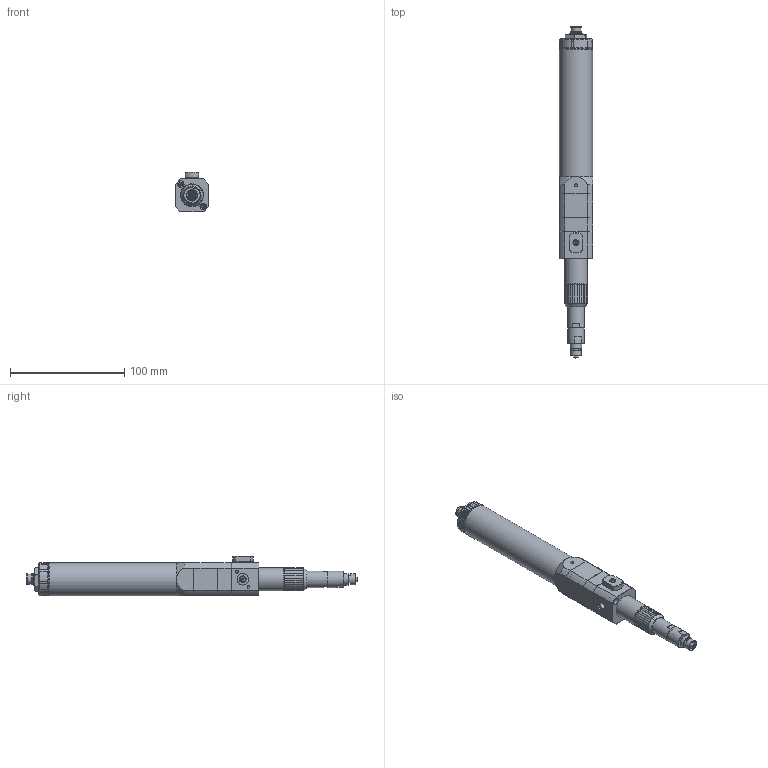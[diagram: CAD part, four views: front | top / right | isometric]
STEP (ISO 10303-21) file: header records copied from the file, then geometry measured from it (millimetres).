
FILE_DESCRIPTION (( 'STEP AP214' ), '1' );
FILE_NAME ('PCPM-150-SY.STEP', '2024-10-11T11:35:02', ( '' ), ( '' ), 'SwSTEP 2.0', 'SolidWorks 2024', '' );
FILE_SCHEMA (( 'AUTOMOTIVE_DESIGN' ));
Length unit declared in the file: millimetre
Products named in the file (1): PCPM-150-SY
Bounding box: 29 x 291 x 34.8 mm (x, y, z)
Volume: 77501.2 mm3; surface area: 74833.6 mm2
Topology: 35 solids, 35 shells, 1587 faces, 4095 edges, 2659 vertices
Faces by surface type: plane 959, cylinder 349, cone 169, bspline 66, sphere 32, torus 12
Full cylindrical faces by diameter (mm): 0.6 x1, 0.8 x4, 1 x5, 1.5 x11, 2 x1, 2.5 x10, 3 x2, 3.5 x15, 3.9 x1, 4 x1, 4.2 x1, 4.8 x1, 5 x1, 5.2 x1, 5.8 x7, 6 x10, 6.6 x4, 6.8 x1, 7 x1, 8 x2, 8.5 x1, 9 x5, 9.5 x1, 9.6 x2, 10 x6, 10.008 x2, 10.8 x2, 11.2 x1, 11.5 x1, 11.6 x1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
Entity records: 49318 total; most frequent: CARTESIAN_POINT 14836, ORIENTED_EDGE 7114, DIRECTION 6618, EDGE_CURVE 3557, AXIS2_PLACEMENT_3D 2643, VERTEX_POINT 2476, EDGE_LOOP 2139, FACE_OUTER_BOUND 1797
